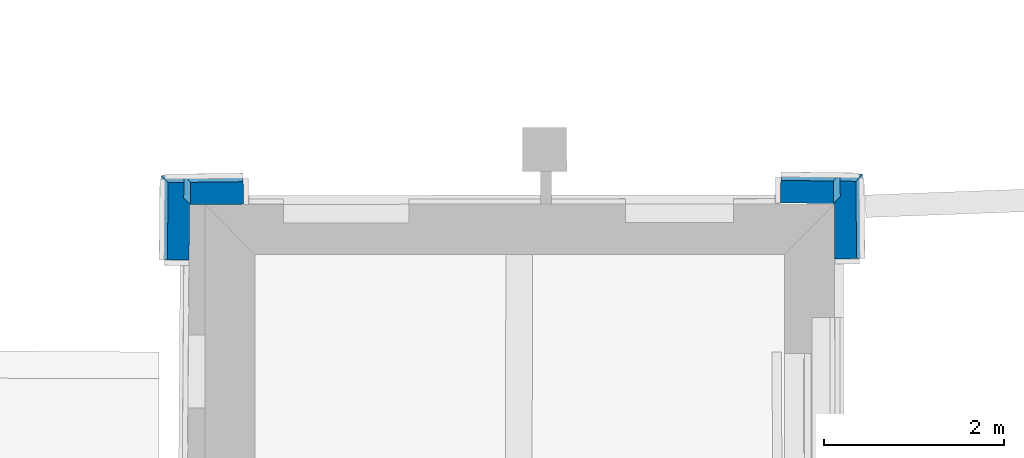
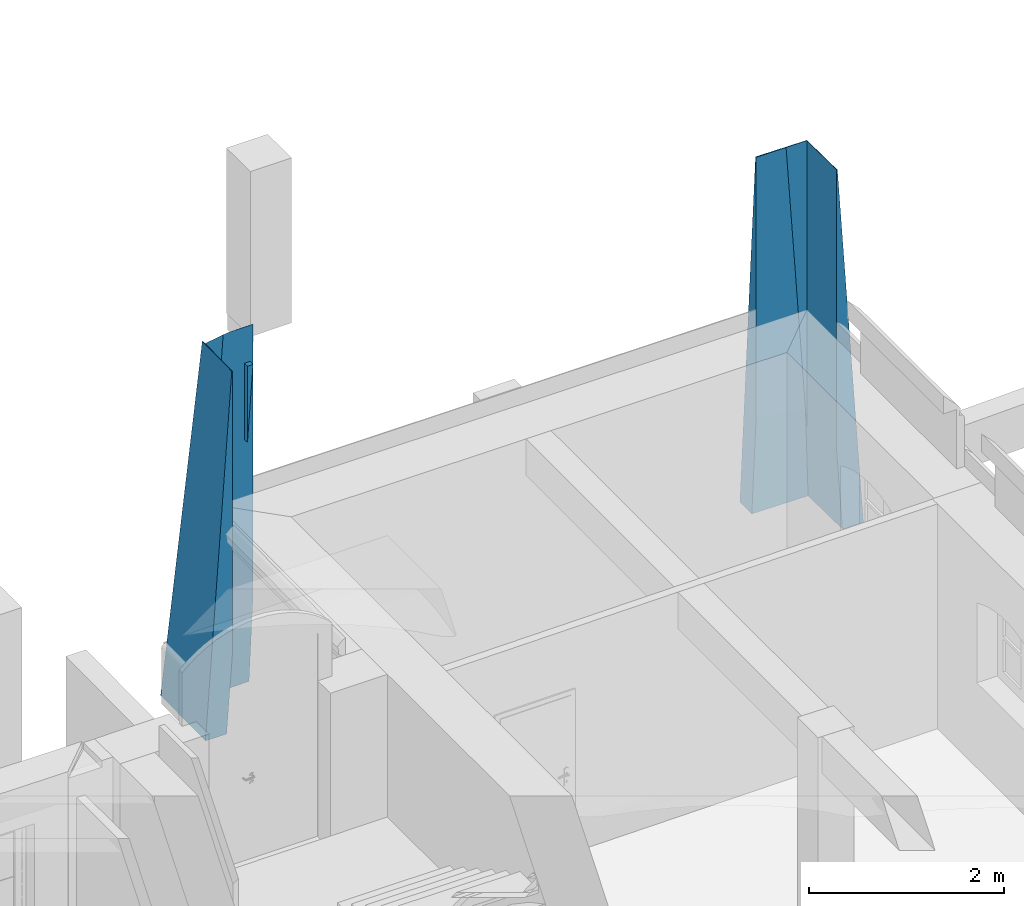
# One storey, part 110 of 196: 4 walls.
"""IFC2X3 building model written with IfcOpenShell, lengths in metres."""

import ifcopenshell
import ifcopenshell.guid

model = None  # the IFC model being written
_history = None  # IfcOwnerHistory: only IFC2X3 demands one
_inside = {}  # id of a spatial element -> (the spatial element, [elements in it])
_under = {}  # id of a project, library or spatial element -> (it, [spatial elements below it])
_declared = {}  # id of a project -> (the project, [libraries it declares])
_typed = {}  # id of a type object -> (the type object, [elements of that type])
_made_of = {}  # id of a material, layer set ... -> (it, [elements and type objects made of it])


def new_model(schema):
    """Start an empty IFC model of exactly this schema.

    Asked for "IFC4X3", IfcOpenShell would pick the latest addendum, in which some entities
    have other attributes; the version numbers below select the first issue.
    IFC2X3 requires an IfcOwnerHistory on every rooted entity: one is made here for all.
    """
    global model, _history
    if schema == "IFC4X3":
        model = ifcopenshell.file(schema_version=(4, 3, 0, 0))
    else:
        model = ifcopenshell.file(schema=schema)
    _inside.clear()
    _under.clear()
    _declared.clear()
    _typed.clear()
    _made_of.clear()
    _history = None
    if model.schema == "IFC2X3":
        org = make("IfcOrganization", Name="unknown")
        user = make(
            "IfcPersonAndOrganization",
            ThePerson=make("IfcPerson", FamilyName="unknown"),
            TheOrganization=org,
        )
        app = make(
            "IfcApplication",
            ApplicationDeveloper=org,
            Version="unknown",
            ApplicationFullName="unknown",
            ApplicationIdentifier="unknown",
        )
        _history = make(
            "IfcOwnerHistory",
            OwningUser=user,
            OwningApplication=app,
            ChangeAction="ADDED",
            CreationDate=0,
        )
    return model


def make(cls, **values):
    """One entity of the class cls with the attributes given. An attribute that is None is left unset."""
    return model.create_entity(
        cls, **{name: value for name, value in values.items() if value is not None}
    )


def entity(cls, *values):
    """Any entity or typed value of the class cls, its attributes in the order of the schema. None: left unset."""
    e = model.create_entity(cls)
    for i, value in enumerate(values):
        if value is not None:
            e[i] = value
    return e


def rooted(cls, **values):
    """An entity with a GlobalId (a new one), such as an element, a storey or a relation."""
    return make(cls, GlobalId=ifcopenshell.guid.new(), OwnerHistory=_history, **values)


def si_unit(unit_type, name, prefix=None):
    """IfcSIUnit, for example si_unit("LENGTHUNIT", "METRE", prefix="MILLI")."""
    return make("IfcSIUnit", UnitType=unit_type, Prefix=prefix, Name=name)


def converted_unit(unit_type, name, factor, base, dimensions=None, offset=None):
    """IfcConversionBasedUnit, such as the inch: factor (a typed value) times the base unit."""
    return make(
        "IfcConversionBasedUnit"
        if offset is None
        else "IfcConversionBasedUnitWithOffset",
        ConversionOffset=offset,
        Dimensions=None
        if dimensions is None
        else entity("IfcDimensionalExponents", *dimensions),
        UnitType=unit_type,
        Name=name,
        ConversionFactor=make(
            "IfcMeasureWithUnit", ValueComponent=factor, UnitComponent=base
        ),
    )


def derived_unit(unit_type, elements):
    """IfcDerivedUnit: a product of units, each with its exponent."""
    return make(
        "IfcDerivedUnit",
        Elements=[
            make("IfcDerivedUnitElement", Unit=unit, Exponent=power)
            for unit, power in elements
        ],
        UnitType=unit_type,
    )


def money_unit(currency):
    """IfcMonetaryUnit."""
    return make("IfcMonetaryUnit", Currency=currency)


def assignment(units):
    """IfcUnitAssignment: the units of a project."""
    return None if units is None else make("IfcUnitAssignment", Units=units)


def point(xyz):
    """IfcCartesianPoint."""
    return None if xyz is None else make("IfcCartesianPoint", Coordinates=xyz)


def direction(xyz):
    """IfcDirection."""
    return None if xyz is None else make("IfcDirection", DirectionRatios=xyz)


def frame(location, z_axis=None, x_axis=None):
    """IfcAxis2Placement3D, a coordinate frame: its origin and axes. An axis left out is left unset."""
    return make(
        "IfcAxis2Placement3D",
        Location=point(location),
        Axis=direction(z_axis),
        RefDirection=direction(x_axis),
    )


def origin_with_axes():
    """The frame at (0, 0, 0) with the z axis (0, 0, 1) and the x axis (1, 0, 0) written out."""
    return frame((0.0, 0.0, 0.0), z_axis=(0.0, 0.0, 1.0), x_axis=(1.0, 0.0, 0.0))


def place(relative_to, where):
    """IfcLocalPlacement: puts the frame where relative to a parent placement (None: the world)."""
    return make(
        "IfcLocalPlacement", PlacementRelTo=relative_to, RelativePlacement=where
    )


def context(
    kind, dimensions, precision=None, world=None, true_north=None, identifier=None
):
    """IfcGeometricRepresentationContext, for example the 3D "Model" context."""
    return make(
        "IfcGeometricRepresentationContext",
        ContextIdentifier=identifier,
        ContextType=kind,
        CoordinateSpaceDimension=dimensions,
        Precision=precision,
        WorldCoordinateSystem=world,
        TrueNorth=true_north,
    )


def subcontext(parent, identifier, kind, view, scale=None):
    """IfcGeometricRepresentationSubContext, for example "Body" below "Model"."""
    return make(
        "IfcGeometricRepresentationSubContext",
        ContextIdentifier=identifier,
        ContextType=kind,
        ParentContext=parent,
        TargetScale=scale,
        TargetView=view,
    )


def project(units=None, contexts=None):
    """IfcProject with its units and contexts."""
    return rooted(
        "IfcProject",
        Name="project",
        RepresentationContexts=contexts,
        UnitsInContext=assignment(units),
    )


def spatial(cls, under=None, at=None, **own):
    """A site, building, storey or space (cls), placed at a placement, below another one or the project."""
    s = rooted(cls, ObjectPlacement=at, **own)
    if under is not None:
        _under.setdefault(under.id(), (under, []))[1].append(s)
    return s


def polyline(points):
    """IfcPolyline through the points."""
    return make("IfcPolyline", Points=[point(p) for p in points])


def outline(outer, holes=None, kind="AREA"):
    """IfcArbitraryClosedProfileDef: a profile drawn as a closed curve; with holes, ...WithVoids."""
    if holes is None:
        return make("IfcArbitraryClosedProfileDef", ProfileType=kind, OuterCurve=outer)
    return make(
        "IfcArbitraryProfileDefWithVoids",
        ProfileType=kind,
        OuterCurve=outer,
        InnerCurves=holes,
    )


def extrude(swept, where, along, depth):
    """IfcExtrudedAreaSolid: the profile swept, set in the frame where, extruded along a direction by depth."""
    return make(
        "IfcExtrudedAreaSolid",
        SweptArea=swept,
        Position=where,
        ExtrudedDirection=direction(along),
        Depth=depth,
    )


def boolean(op, a, b):
    """IfcBooleanResult of two solids."""
    return make("IfcBooleanResult", Operator=op, FirstOperand=a, SecondOperand=b)


def faces_of(points, faces, orient=None, outer=None):
    """IfcFace entities. A face is a list of loops; a loop is a list of indices into points, from 0.

    orient and outer hold one flag for each loop. By default every Orientation is true, the
    first loop of a face is its IfcFaceOuterBound and the others are IfcFaceBound.
    """
    made = []
    for i, loops in enumerate(faces):
        bounds = []
        for j, loop in enumerate(loops):
            is_outer = j == 0 if outer is None else outer[i][j]
            bounds.append(
                make(
                    "IfcFaceOuterBound" if is_outer else "IfcFaceBound",
                    Bound=make("IfcPolyLoop", Polygon=[points[k] for k in loop]),
                    Orientation=True if orient is None else orient[i][j],
                )
            )
        made.append(make("IfcFace", Bounds=bounds))
    return made


def faceted_brep(points, faces, orient=None, outer=None, voids=None):
    """IfcFacetedBrep: a solid bounded by flat faces; with voids (closed shells), ...WithVoids."""
    shared = [point(p) for p in points]
    hull = make("IfcClosedShell", CfsFaces=faces_of(shared, faces, orient, outer))
    if voids is None:
        return make("IfcFacetedBrep", Outer=hull)
    return make(
        "IfcFacetedBrepWithVoids",
        Outer=hull,
        Voids=[
            make(cls, CfsFaces=faces_of(shared, fs, o, b)) for cls, fs, o, b in voids
        ],
    )


def shape(context_of_items, identifier, shape_type, items):
    """IfcShapeRepresentation: the items that make up one representation, for example the "Body"."""
    return make(
        "IfcShapeRepresentation",
        ContextOfItems=context_of_items,
        RepresentationIdentifier=identifier,
        RepresentationType=shape_type,
        Items=items,
    )


def material(Name=None, Category=None):
    """IfcMaterial."""
    return make("IfcMaterial", Name=Name, Category=Category)


def made_of(thing, what):
    """Note that an element or type object is made of a material, layer set ...; save() writes the relation."""
    if what is not None:
        _made_of.setdefault(what.id(), (what, []))[1].append(thing)
    return thing


def type_object(cls, material=None, **own):
    """A type object (cls), such as IfcWallType, which elements share."""
    return made_of(rooted(cls, **own), material)


def element(
    cls,
    number,
    at=None,
    inside=None,
    cuts=None,
    type_object=None,
    material=None,
    context=None,
    identifier="Body",
    shape_type=None,
    held_by="IfcProductDefinitionShape",
    body=None,
    shapes=None,
    **own,
):
    """One element of the class cls, such as IfcWall. Its Tag is "e" and its number.

    at: its placement. inside: the storey or other place that contains it. cuts: it is an
    opening in that element (IfcRelVoidsElement). A single representation is given by context,
    identifier, shape_type and body (its items); several are given by shapes. held_by: the class
    of the entity that holds the representations. save() writes the other relations.
    """
    e = rooted(cls, Tag="e%d" % number, ObjectPlacement=at, **own)
    if body is not None:
        shapes = [shape(context, identifier, shape_type, body)]
    if shapes is not None:
        e.Representation = make(held_by, Representations=shapes)
    if inside is not None:
        _inside.setdefault(inside.id(), (inside, []))[1].append(e)
    if cuts is not None:
        rooted(
            "IfcRelVoidsElement", RelatingBuildingElement=cuts, RelatedOpeningElement=e
        )
    if type_object is not None:
        _typed.setdefault(type_object.id(), (type_object, []))[1].append(e)
    return made_of(e, material)


def aggregate(whole, parts):
    """IfcRelAggregates: a whole, such as a stair, and the parts it consists of."""
    return rooted("IfcRelAggregates", RelatingObject=whole, RelatedObjects=parts)


def save(model, path):
    """Write the relations noted so far, then the file.

    IfcRelAggregates (storeys below a building ...), IfcRelContainedInSpatialStructure (elements
    in a storey), IfcRelDefinesByType, IfcRelAssociatesMaterial and IfcRelDeclares: one each for
    every whole, place, type object, material and project.
    """
    for whole, parts in _under.values():
        aggregate(whole, parts)
    for where, things in _inside.values():
        rooted(
            "IfcRelContainedInSpatialStructure",
            RelatedElements=things,
            RelatingStructure=where,
        )
    for kind, things in _typed.values():
        rooted("IfcRelDefinesByType", RelatedObjects=things, RelatingType=kind)
    for what, things in _made_of.values():
        rooted("IfcRelAssociatesMaterial", RelatedObjects=things, RelatingMaterial=what)
    for by, libraries in _declared.values():
        rooted("IfcRelDeclares", RelatingContext=by, RelatedDefinitions=libraries)
    model.write(path)


model = new_model("IFC2X3")

# Units and contexts
model_context = context("Model", 3, precision=1e-05, world=origin_with_axes(), true_north=direction((0.0, 1.0)))
body_context = subcontext(model_context, "Body", "Model", "MODEL_VIEW")
ifc_project = project(units=[si_unit("LENGTHUNIT", "METRE"), si_unit("AREAUNIT", "SQUARE_METRE"), si_unit("VOLUMEUNIT", "CUBIC_METRE"), converted_unit("PLANEANGLEUNIT", "DEGREE", entity("IfcPlaneAngleMeasure", 0.0174532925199), si_unit("PLANEANGLEUNIT", "RADIAN"), dimensions=[0, 0, 0, 0, 0, 0, 0]), money_unit("EUR"), converted_unit("TIMEUNIT", "Year", entity("IfcTimeMeasure", 31556926.0), si_unit("TIMEUNIT", "SECOND"), dimensions=[0, 0, 1, 0, 0, 0, 0]), si_unit("MASSUNIT", "GRAM", prefix="KILO"), si_unit("THERMODYNAMICTEMPERATUREUNIT", "DEGREE_CELSIUS"), si_unit("LUMINOUSINTENSITYUNIT", "LUMEN"), si_unit("ENERGYUNIT", "JOULE", prefix="MEGA"), derived_unit("THERMALCONDUCTANCEUNIT", [(si_unit("POWERUNIT", "WATT"), 1), (si_unit("LENGTHUNIT", "METRE"), -1), (si_unit("THERMODYNAMICTEMPERATUREUNIT", "KELVIN"), -1)]), derived_unit("SPECIFICHEATCAPACITYUNIT", [(si_unit("ENERGYUNIT", "JOULE"), 1), (si_unit("MASSUNIT", "GRAM", prefix="KILO"), -1), (si_unit("THERMODYNAMICTEMPERATUREUNIT", "KELVIN"), -1)]), derived_unit("MASSDENSITYUNIT", [(si_unit("MASSUNIT", "GRAM", prefix="KILO"), 1), (si_unit("VOLUMEUNIT", "CUBIC_METRE"), -1)])], contexts=[model_context])

# Site, building, storey
site_placement = place(None, origin_with_axes())
site = spatial("IfcSite", under=ifc_project, at=site_placement, Name="Gelände", CompositionType="ELEMENT")
building_placement = place(site_placement, origin_with_axes())
building = spatial("IfcBuilding", under=site, at=building_placement, Name="Gebäude", CompositionType="ELEMENT")
storey_placement = place(building_placement, frame((0.0, 0.0, -3.0), z_axis=(0.0, 0.0, 1.0), x_axis=(1.0, 0.0, 0.0)))
storey = spatial("IfcBuildingStorey", under=building, at=storey_placement, Name="KELLERGESCHOSS", CompositionType="ELEMENT", Elevation=-3.0)

# Walls
ifc_material = material(Name="05_ALLGEMEIN - TRAGENDE BAUTEILE")
wall_type = type_object("IfcWallType", Name="05_ALLGEMEIN - TRAGENDE BAUTEILE 250", PredefinedType="ELEMENTEDWALL")
wall_1_placement = place(storey_placement, frame((31.9933539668, 28.560052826, 0.381444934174), z_axis=(0.0, 0.0, 1.0), x_axis=(-0.00991415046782, 0.999950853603, 0.0)))
element("IfcWall", 1, at=wall_1_placement, inside=storey, type_object=wall_type, material=ifc_material, Name="Wand-041", ObjectType="ELEMENTEDWALL", context=body_context, shape_type="CSG", body=[
    boolean("DIFFERENCE", boolean("DIFFERENCE", extrude(outline(polyline([(-0.250585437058, 0.0), (0.0, 0.0), (-0.310221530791, 4.53036021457), (-0.56080696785, 4.53036021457), (-0.250585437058, 0.0)])), frame((0.0, 0.0, 0.0), z_axis=(-1.0, 0.0, 0.0), x_axis=(0.0, -1.0, 0.0)), (0.0, 0.0, -1.0), 0.944797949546), faceted_brep([(0.0, 0.319220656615, 1.00232329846), (0.0, 0.319220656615, 4.53036021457), (0.0, 0.56080696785, 4.53036021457), (0.611382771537, 0.313365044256, 4.53036021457), (0.0514084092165, 0.318728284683, 0.995132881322), (0.0514084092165, 0.318728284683, 2.40855506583), (0.611382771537, 0.313365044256, 2.40855506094), (0.613653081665, 0.56080696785, 4.53036021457), (0.612320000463, 0.415513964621, 2.40855506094), (0.611382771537, 0.313365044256, 0.916810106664)], [[[0, 1, 2]], [[3, 1, 0, 4, 5, 6]], [[3, 7, 2, 1]], [[4, 0, 2, 7, 8, 9]], [[4, 9, 6, 5]], [[7, 3, 6, 8]], [[9, 8, 6]]])), faceted_brep([(0.61710432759, 0.310221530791, 4.53036021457), (0.939243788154, 0.0, 0.0), (0.944797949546, 0.0, 0.0), (0.944797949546, 0.310221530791, 4.53036021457), (0.944777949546, 0.250585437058, 0.0), (0.622638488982, 0.56080696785, 4.53036021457), (0.944797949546, 0.250585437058, 0.0), (0.944797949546, 0.56080696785, 4.53036021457)], [[[0, 1, 2, 3]], [[4, 1, 0, 5]], [[1, 4, 6, 2]], [[2, 6, 7, 3]], [[5, 0, 3, 7]], [[4, 5, 7, 6]]])),
])
wall_2_placement = place(storey_placement, frame((24.1776583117, 28.5455714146, 0.381444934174), z_axis=(0.0, 0.0, 1.0), x_axis=(0.00991415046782, 0.999950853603, 0.0)))
element("IfcWall", 2, at=wall_2_placement, inside=storey, type_object=wall_type, material=ifc_material, Name="Wand-041", ObjectType="ELEMENTEDWALL", context=body_context, shape_type="CSG", body=[
    boolean("DIFFERENCE", extrude(outline(polyline([(-0.250585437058, 0.0), (0.0, 0.0), (-0.310221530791, 4.53036021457), (-0.56080696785, 4.53036021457), (-0.250585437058, 0.0)])), frame((0.0, 0.0, 0.0), z_axis=(1.0, 0.0, 0.0), x_axis=(0.0, 1.0, 0.0)), (0.0, 0.0, 1.0), 0.944797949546), faceted_brep([(0.0, -0.495526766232, 4.53036021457), (0.0624602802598, -0.494916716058, 4.53036021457), (0.0631622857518, -0.56080696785, 4.53036021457), (0.944797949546, -0.56080696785, 4.53036021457), (0.944797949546, -0.310221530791, 4.53036021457), (0.61710432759, -0.310221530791, 4.53036021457), (0.617234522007, -0.316116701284, 4.53036021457), (0.0605708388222, -0.317573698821, 4.53036021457), (0.0, -0.317732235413, 4.53036021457), (0.0, -0.495526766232, 3.57703235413), (0.0624602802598, -0.494916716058, 3.56812340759), (0.0, -0.317732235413, 0.980586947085), (0.620587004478, -0.31610792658, 0.956866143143), (0.620847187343, -0.415513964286, 2.40855506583), (0.62164609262, -0.415513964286, 2.40855506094), (0.623188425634, -0.560277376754, 4.52262626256), (0.944777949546, -0.250585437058, 0.0), (0.944797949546, -0.250585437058, 0.0), (0.944797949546, 0.0, 0.0), (0.939243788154, 0.0, 0.0), (0.620587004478, -0.31610792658, 4.48419224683), (0.620587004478, -0.31610792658, 2.40855506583), (0.0605708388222, -0.317573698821, 2.40855506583)], [[[0, 1, 2, 3, 4, 5, 6, 7, 8]], [[1, 0, 9, 10]], [[10, 2, 1]], [[10, 9, 11, 12, 13, 14, 15, 16, 17, 3, 2]], [[3, 17, 18, 4]], [[19, 5, 4, 18]], [[16, 15, 20, 6, 5, 19]], [[7, 6, 20, 21, 22]], [[12, 11, 8, 7, 22, 21]], [[9, 0, 8, 11]], [[13, 12, 21]], [[14, 13, 21]], [[15, 14, 21, 20]], [[16, 19, 18, 17]]])),
])
wall_3_placement = place(storey_placement, frame((31.0752421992, 29.510308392, 0.381444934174), z_axis=(0.0, 0.0, 1.0), x_axis=(0.999925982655, -0.0121667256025, 0.0)))
element("IfcWall", 3, at=wall_3_placement, inside=storey, type_object=wall_type, material=ifc_material, Name="Wand-042", ObjectType="ELEMENTEDWALL", context=body_context, shape_type="CSG", body=[
    boolean("DIFFERENCE", extrude(outline(polyline([(0.0, 0.0), (0.250658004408, 0.0), (0.579568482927, 4.53036021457), (0.328910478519, 4.53036021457), (0.0, 0.0)])), frame((0.0, 0.0, 0.0), z_axis=(-1.0, 0.0, 0.0), x_axis=(0.0, -1.0, 0.0)), (0.0, 0.0, -1.0), 0.908867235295), faceted_brep([(0.0, -0.34248072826, 1.26475148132), (0.586128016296, -0.334915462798, 1.16054872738), (0.663756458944, -0.250658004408, 0.0), (0.908867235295, -0.250658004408, 0.0), (0.908867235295, -0.579568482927, 4.53036021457), (0.0, -0.579568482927, 4.53036021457), (0.0, -0.34248072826, 4.53036021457), (0.0228658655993, -0.342185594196, 4.53036021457), (0.0228658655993, -0.342185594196, 2.40855506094), (0.500672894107, -0.336018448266, 2.40855506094), (0.658220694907, 0.0, 0.0), (0.355385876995, -0.337893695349, 4.53036021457), (0.355187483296, -0.328910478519, 4.53036021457), (0.908867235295, 0.0, 0.0), (0.908867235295, -0.328910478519, 4.53036021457)], [[[0, 1, 2, 3, 4, 5]], [[1, 0, 6, 7, 8, 9]], [[10, 2, 1, 9, 11, 12]], [[2, 10, 13, 3]], [[3, 13, 14, 4]], [[7, 6, 5, 4, 14, 12, 11]], [[6, 0, 5]], [[7, 11, 9, 8]], [[10, 12, 14, 13]]])),
])
wall_4_placement = place(storey_placement, frame((25.0957700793, 29.4958269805, 0.381444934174), z_axis=(0.0, 0.0, 1.0), x_axis=(-0.999925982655, -0.0121667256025, 0.0)))
element("IfcWall", 4, at=wall_4_placement, inside=storey, type_object=wall_type, material=ifc_material, Name="Wand-042", ObjectType="ELEMENTEDWALL", context=body_context, shape_type="CSG", body=[
    boolean("DIFFERENCE", extrude(outline(polyline([(0.0, 0.0), (0.250658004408, 0.0), (0.579568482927, 4.53036021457), (0.328910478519, 4.53036021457), (0.0, 0.0)])), frame((0.0, 0.0, 0.0), z_axis=(1.0, 0.0, 0.0), x_axis=(0.0, 1.0, 0.0)), (0.0, 0.0, 1.0), 0.908867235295), faceted_brep([(0.0, 0.33241400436, 1.12609403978), (0.0, 0.33241400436, 4.53036021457), (0.0, 0.579568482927, 4.53036021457), (0.306571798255, 0.328910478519, 4.53036021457), (0.42653412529, 0.327539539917, 1.0589539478), (0.42653412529, 0.327539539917, 2.40855506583), (0.500466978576, 0.326694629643, 2.40855506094), (0.355704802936, 0.328348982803, 4.52262626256), (0.908867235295, 0.328910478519, 4.53036021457), (0.908867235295, 0.579568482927, 4.53036021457), (0.908867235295, 0.250658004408, 0.0), (0.663756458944, 0.250658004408, 0.0), (0.594655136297, 0.325660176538, 1.03306789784), (0.426551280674, 0.328932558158, 1.07814115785), (0.426551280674, 0.328932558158, 2.40855506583), (0.500484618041, 0.327493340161, 2.40855506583), (0.658220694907, 0.0, 0.0), (0.908867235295, 0.0, 0.0)], [[[0, 1, 2]], [[3, 1, 0, 4, 5, 6, 7]], [[1, 3, 8, 9, 2]], [[4, 0, 2, 9, 10, 11, 12, 13]], [[4, 13, 14, 5]], [[15, 6, 5, 14]], [[16, 7, 6, 15, 12, 11]], [[7, 16, 17, 8, 3]], [[8, 17, 10, 9]], [[16, 11, 10, 17]], [[13, 12, 15, 14]]])),
])

save(model, "model.ifc")
